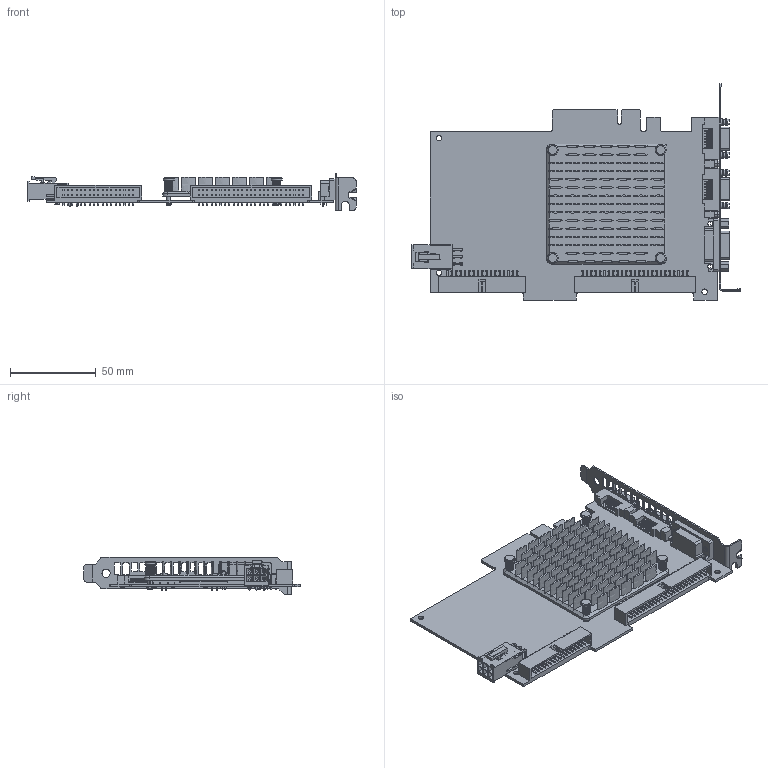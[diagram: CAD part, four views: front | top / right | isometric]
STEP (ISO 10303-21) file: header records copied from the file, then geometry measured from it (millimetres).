
FILE_DESCRIPTION((''),'2;1');
FILE_NAME('CU_PCIE-1437','2018-08-21T',('kleong'),(''),'CREO PARAMETRIC BY PTC INC, 2017480','CREO PARAMETRIC BY PTC INC, 2017480','');
FILE_SCHEMA(('AUTOMOTIVE_DESIGN { 1 0 10303 214 1 1 1 1 }'));
Products named in the file (1): CU_PCIE-1437
Bounding box: 191.62 x 126.32 x 21.59 mm (x, y, z)
Volume: 62822.8 mm3; surface area: 80498.3 mm2
Topology: 1 solids, 1 shells, 3965 faces, 10540 edges, 6924 vertices
Faces by surface type: plane 2821, cylinder 861, extrusion 194, cone 47, bspline 24, sphere 10, torus 8
Entity records: 169829 total; most frequent: CARTESIAN_POINT 50563, ORIENTED_EDGE 21052, DIRECTION 19879, EDGE_CURVE 10526, VECTOR 8107, LINE 7913, VERTEX_POINT 6924, AXIS2_PLACEMENT_3D 5886
